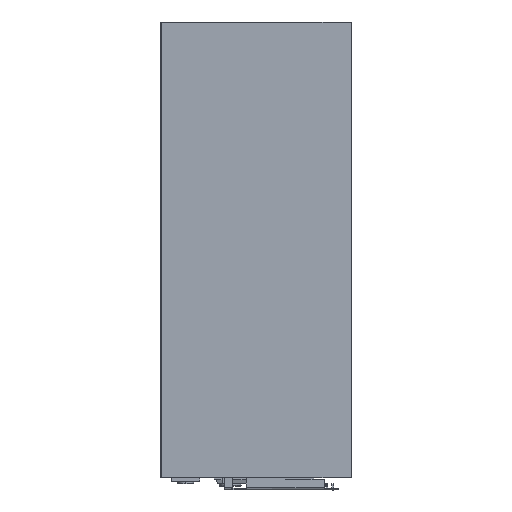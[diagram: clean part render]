
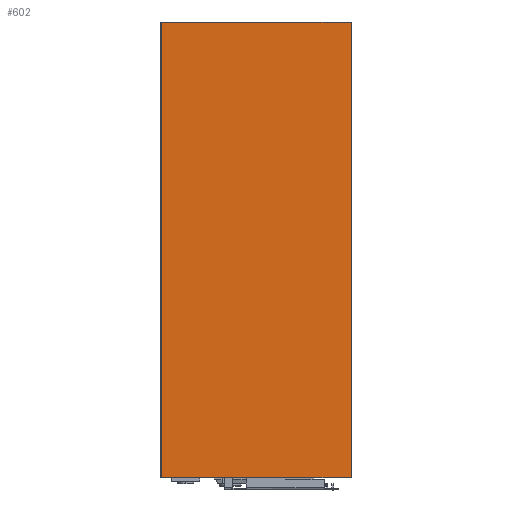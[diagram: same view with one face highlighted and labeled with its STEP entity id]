
A CAD part, left-side view. The second image highlights one B-rep face of the part: STEP entity #602.
In plain terms, the highlighted planar face has unit normal (-1, 0, 0).
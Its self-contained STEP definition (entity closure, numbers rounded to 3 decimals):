
#149 = FACE_OUTER_BOUND ( 'NONE', #1065, .T. ) ;
#188 = VECTOR ( 'NONE', #3478, 1000. ) ;
#214 = LINE ( 'NONE', #1852, #188 ) ;
#514 = EDGE_CURVE ( 'NONE', #2574, #2152, #214, .T. ) ;
#515 = CARTESIAN_POINT ( 'NONE',  ( 2.5, -29., -290. ) ) ;
#548 = ORIENTED_EDGE ( 'NONE', *, *, #929, .T. ) ;
#602 = ADVANCED_FACE ( 'NONE', ( #149 ), #2339, .F. ) ;
#879 = AXIS2_PLACEMENT_3D ( 'NONE', #2883, #2640, #2629 ) ;
#924 = CARTESIAN_POINT ( 'NONE',  ( 2.5, -29., 0. ) ) ;
#929 = EDGE_CURVE ( 'NONE', #2165, #2152, #2304, .T. ) ;
#1013 = DIRECTION ( 'NONE',  ( 0., 0., -1. ) ) ;
#1065 = EDGE_LOOP ( 'NONE', ( #2118, #3491, #1215, #548 ) ) ;
#1123 = LINE ( 'NONE', #1916, #1163 ) ;
#1156 = VECTOR ( 'NONE', #1308, 1000. ) ;
#1163 = VECTOR ( 'NONE', #1013, 1000. ) ;
#1215 = ORIENTED_EDGE ( 'NONE', *, *, #2721, .T. ) ;
#1308 = DIRECTION ( 'NONE',  ( 0., -1., 0. ) ) ;
#1405 = LINE ( 'NONE', #2210, #1557 ) ;
#1479 = CARTESIAN_POINT ( 'NONE',  ( 2.5, 91.9, -290. ) ) ;
#1557 = VECTOR ( 'NONE', #3270, 1000. ) ;
#1852 = CARTESIAN_POINT ( 'NONE',  ( 2.5, -29., 0. ) ) ;
#1916 = CARTESIAN_POINT ( 'NONE',  ( 2.5, 91.5, 0. ) ) ;
#2118 = ORIENTED_EDGE ( 'NONE', *, *, #514, .F. ) ;
#2152 = VERTEX_POINT ( 'NONE', #515 ) ;
#2165 = VERTEX_POINT ( 'NONE', #2175 ) ;
#2175 = CARTESIAN_POINT ( 'NONE',  ( 2.5, 91.5, -290. ) ) ;
#2210 = CARTESIAN_POINT ( 'NONE',  ( 2.5, -29., 0. ) ) ;
#2304 = LINE ( 'NONE', #1479, #1156 ) ;
#2339 = PLANE ( 'NONE',  #879 ) ;
#2464 = CARTESIAN_POINT ( 'NONE',  ( 2.5, 91.5, 0. ) ) ;
#2535 = VERTEX_POINT ( 'NONE', #2464 ) ;
#2574 = VERTEX_POINT ( 'NONE', #924 ) ;
#2629 = DIRECTION ( 'NONE',  ( 0., -1., 0. ) ) ;
#2640 = DIRECTION ( 'NONE',  ( 1., 0., 0. ) ) ;
#2721 = EDGE_CURVE ( 'NONE', #2535, #2165, #1123, .T. ) ;
#2883 = CARTESIAN_POINT ( 'NONE',  ( 2.5, -29., 0. ) ) ;
#2957 = EDGE_CURVE ( 'NONE', #2574, #2535, #1405, .T. ) ;
#3270 = DIRECTION ( 'NONE',  ( 0., 1., 0. ) ) ;
#3478 = DIRECTION ( 'NONE',  ( 0., 0., -1. ) ) ;
#3491 = ORIENTED_EDGE ( 'NONE', *, *, #2957, .T. ) ;
